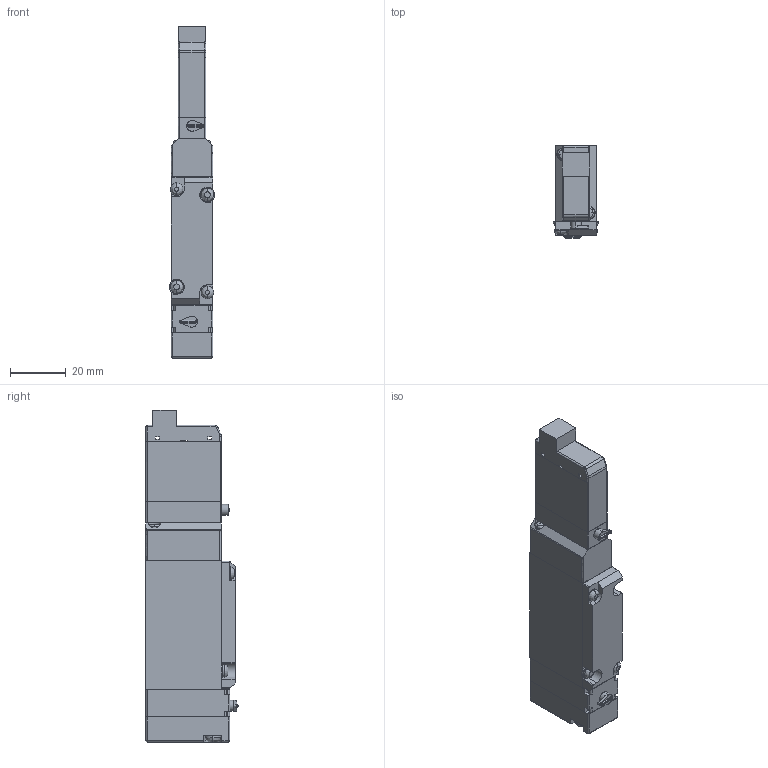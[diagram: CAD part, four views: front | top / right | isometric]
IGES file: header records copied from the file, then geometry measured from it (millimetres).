
Start section: ------------------------------------------------------------------------
Global section: file name: D:\ICADMX\tmp\trans3d_spg\CVICAD02.7120.F15T3-R-A1-PN_17200.igs; native system: spGate; preprocessor: ver12.6.6; author: Unknown; organization: Unknown; date: 210712.185055; units: millimetre
Bounding box: 16.2 x 32.99 x 119 mm (x, y, z)
Volume: 44646.8 mm3; surface area: 17213.3 mm2
Topology: 7 solids, 7 shells, 335 faces, 848 edges, 529 vertices
Faces by surface type: bspline 335
